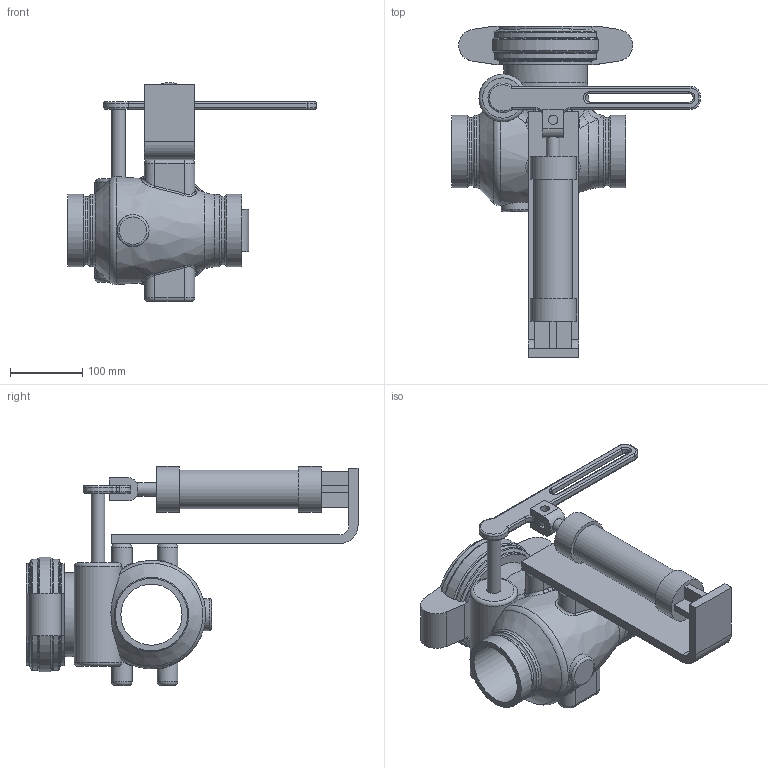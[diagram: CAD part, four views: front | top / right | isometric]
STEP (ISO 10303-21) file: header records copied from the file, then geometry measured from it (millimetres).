
FILE_DESCRIPTION(/* description */ ('VIC AWWA VALVE CHECK AIR CUSHION SERIES 317 (DRG)','CAx-IF Rec.Pracs.---Representation and Presentation of Product Manufacturing Information (PMI)---4.0---2014-10-13'),/* implementation_level */ '2;1');
FILE_NAME(/* name */ 'C:\Users\Vjadhav\Desktop\CAD for Inventor\1\317\STEP\Victaulic_AWWA_Valve Check Air Cushion_Series 317 (DRG)\Victaulic_AWWA_Valve Check Air Cushion_Series 317 (DRG)_3 (80).stp',/* time_stamp */ '2021-10-01T17:33:26+05:00',/* author */ ('jbrannon'),/* organization */ ('Victaulic'),/* preprocessor_version */ 'ST-DEVELOPER v17.2',/* originating_system */ 'Autodesk Inventor 2019',/* authorisation */ '');
FILE_SCHEMA (('AP242_MANAGED_MODEL_BASED_3D_ENGINEERING_MIM_LF { 1 0 10303 442 1 1 4 }'));
Length unit declared in the file: inch
Products named in the file (1): 317-03.0
Bounding box: 344.42 x 460.5 x 303.78 mm (x, y, z)
Volume: 5099152.2 mm3; surface area: 445213.6 mm2
Topology: 1 solids, 1 shells, 246 faces, 634 edges, 399 vertices
Faces by surface type: cylinder 74, plane 71, torus 51, bspline 38, cone 12
Full cylindrical faces by diameter (mm): 12.827 x2, 19.05 x2, 44.45 x1, 53.34 x1, 63.5 x2, 66.04 x1, 84.836 x1, 94.564 x2, 100.584 x4, 116.284 x1
Entity records: 9565 total; most frequent: CARTESIAN_POINT 3346, ORIENTED_EDGE 1270, DIRECTION 1218, EDGE_CURVE 635, AXIS2_PLACEMENT_3D 493, VERTEX_POINT 399, CIRCLE 271, EDGE_LOOP 268
